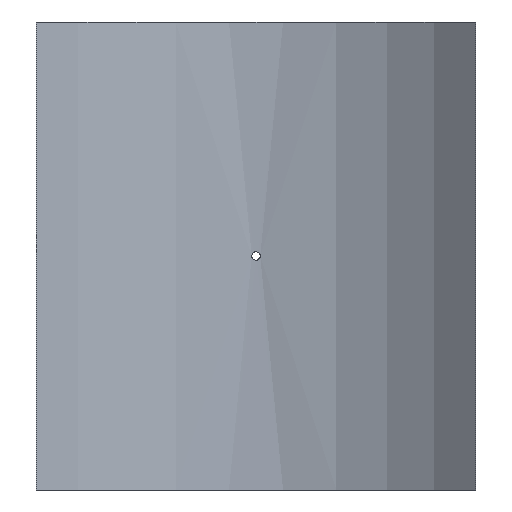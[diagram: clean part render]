
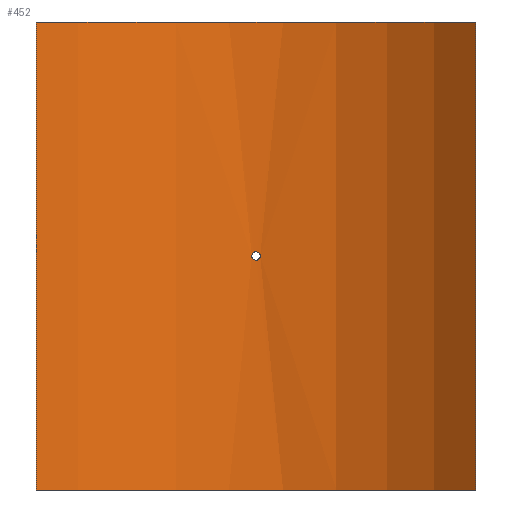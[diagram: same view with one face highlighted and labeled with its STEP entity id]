
A CAD part, front view. The second image highlights one B-rep face of the part: STEP entity #452.
In plain terms, the highlighted cylindrical face has radius 355 mm (diameter 710 mm), a partial arc.
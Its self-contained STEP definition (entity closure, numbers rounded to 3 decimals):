
#19=B_SPLINE_CURVE_WITH_KNOTS('',3,(#788,#789,#790,#791,#792,#793,#794,
#795,#796,#797,#798,#799,#800,#801,#802,#803,#804,#805,#806,#807,#808,#809,
#810,#811,#812,#813,#814,#815,#816,#817,#818,#819,#820,#821),
 .UNSPECIFIED.,.T.,.F.,(4,2,2,2,2,2,2,2,2,2,2,2,2,2,2,2,4),(0.,0.181,
0.362,0.542,0.723,0.904,
1.085,1.266,1.446,1.627,1.808,
1.989,2.17,2.351,2.531,2.712,
2.893),.UNSPECIFIED.);
#43=LINE('',#1065,#62);
#44=LINE('',#1068,#63);
#62=VECTOR('',#661,10.);
#63=VECTOR('',#664,10.);
#76=CYLINDRICAL_SURFACE('',#530,355.);
#88=FACE_BOUND('',#167,.T.);
#127=FACE_OUTER_BOUND('',#166,.T.);
#166=EDGE_LOOP('',(#405,#406,#407,#408));
#167=EDGE_LOOP('',(#409));
#201=CIRCLE('',#529,355.);
#202=CIRCLE('',#531,355.);
#219=VERTEX_POINT('',#786);
#242=VERTEX_POINT('',#1058);
#243=VERTEX_POINT('',#1060);
#244=VERTEX_POINT('',#1064);
#245=VERTEX_POINT('',#1066);
#267=EDGE_CURVE('',#219,#219,#19,.T.);
#299=EDGE_CURVE('',#242,#243,#201,.T.);
#301=EDGE_CURVE('',#244,#242,#43,.T.);
#302=EDGE_CURVE('',#245,#244,#202,.T.);
#303=EDGE_CURVE('',#245,#243,#44,.T.);
#405=ORIENTED_EDGE('',*,*,#301,.F.);
#406=ORIENTED_EDGE('',*,*,#302,.F.);
#407=ORIENTED_EDGE('',*,*,#303,.T.);
#408=ORIENTED_EDGE('',*,*,#299,.F.);
#409=ORIENTED_EDGE('',*,*,#267,.T.);
#452=ADVANCED_FACE('',(#127,#88),#76,.F.);
#529=AXIS2_PLACEMENT_3D('',#1061,#656,#657);
#530=AXIS2_PLACEMENT_3D('',#1063,#659,#660);
#531=AXIS2_PLACEMENT_3D('',#1067,#662,#663);
#656=DIRECTION('center_axis',(0.,0.,1.));
#657=DIRECTION('ref_axis',(0.701,0.713,0.));
#659=DIRECTION('center_axis',(0.,0.,1.));
#660=DIRECTION('ref_axis',(0.701,0.713,0.));
#661=DIRECTION('',(0.,0.,-1.));
#662=DIRECTION('center_axis',(0.,0.,-1.));
#663=DIRECTION('ref_axis',(0.701,0.713,0.));
#664=DIRECTION('',(0.,0.,-1.));
#786=CARTESIAN_POINT('',(4.8,354.968,0.));
#788=CARTESIAN_POINT('Ctrl Pts',(4.8,354.968,0.));
#789=CARTESIAN_POINT('Ctrl Pts',(4.8,354.968,-0.603));
#790=CARTESIAN_POINT('Ctrl Pts',(4.68,354.969,-1.246));
#791=CARTESIAN_POINT('Ctrl Pts',(4.19,354.975,-2.428));
#792=CARTESIAN_POINT('Ctrl Pts',(3.82,354.98,-2.968));
#793=CARTESIAN_POINT('Ctrl Pts',(2.968,354.988,-3.82));
#794=CARTESIAN_POINT('Ctrl Pts',(2.428,354.992,-4.19));
#795=CARTESIAN_POINT('Ctrl Pts',(1.246,354.998,-4.68));
#796=CARTESIAN_POINT('Ctrl Pts',(0.603,355.,-4.8));
#797=CARTESIAN_POINT('Ctrl Pts',(-0.603,355.,-4.8));
#798=CARTESIAN_POINT('Ctrl Pts',(-1.246,354.998,-4.68));
#799=CARTESIAN_POINT('Ctrl Pts',(-2.428,354.992,-4.19));
#800=CARTESIAN_POINT('Ctrl Pts',(-2.968,354.988,-3.82));
#801=CARTESIAN_POINT('Ctrl Pts',(-3.82,354.98,-2.968));
#802=CARTESIAN_POINT('Ctrl Pts',(-4.19,354.975,-2.428));
#803=CARTESIAN_POINT('Ctrl Pts',(-4.68,354.969,-1.246));
#804=CARTESIAN_POINT('Ctrl Pts',(-4.8,354.968,-0.603));
#805=CARTESIAN_POINT('Ctrl Pts',(-4.8,354.968,0.603));
#806=CARTESIAN_POINT('Ctrl Pts',(-4.68,354.969,1.246));
#807=CARTESIAN_POINT('Ctrl Pts',(-4.19,354.975,2.428));
#808=CARTESIAN_POINT('Ctrl Pts',(-3.82,354.98,2.968));
#809=CARTESIAN_POINT('Ctrl Pts',(-2.968,354.988,3.82));
#810=CARTESIAN_POINT('Ctrl Pts',(-2.428,354.992,4.19));
#811=CARTESIAN_POINT('Ctrl Pts',(-1.246,354.998,4.68));
#812=CARTESIAN_POINT('Ctrl Pts',(-0.603,355.,4.8));
#813=CARTESIAN_POINT('Ctrl Pts',(0.603,355.,4.8));
#814=CARTESIAN_POINT('Ctrl Pts',(1.246,354.998,4.68));
#815=CARTESIAN_POINT('Ctrl Pts',(2.428,354.992,4.19));
#816=CARTESIAN_POINT('Ctrl Pts',(2.968,354.988,3.82));
#817=CARTESIAN_POINT('Ctrl Pts',(3.82,354.98,2.968));
#818=CARTESIAN_POINT('Ctrl Pts',(4.19,354.975,2.428));
#819=CARTESIAN_POINT('Ctrl Pts',(4.68,354.969,1.246));
#820=CARTESIAN_POINT('Ctrl Pts',(4.8,354.968,0.603));
#821=CARTESIAN_POINT('Ctrl Pts',(4.8,354.968,0.));
#1058=CARTESIAN_POINT('',(249.,253.03,-265.));
#1060=CARTESIAN_POINT('',(-249.,253.03,-265.));
#1061=CARTESIAN_POINT('Origin',(0.,0.,
-265.));
#1063=CARTESIAN_POINT('Origin',(0.,0.,
0.));
#1064=CARTESIAN_POINT('',(249.,253.03,265.));
#1065=CARTESIAN_POINT('',(249.,253.03,0.));
#1066=CARTESIAN_POINT('',(-249.,253.03,265.));
#1067=CARTESIAN_POINT('Origin',(0.,0.,
265.));
#1068=CARTESIAN_POINT('',(-249.,253.03,0.));
